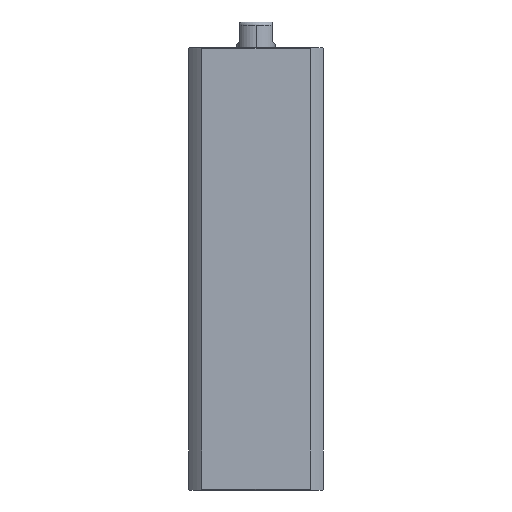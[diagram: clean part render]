
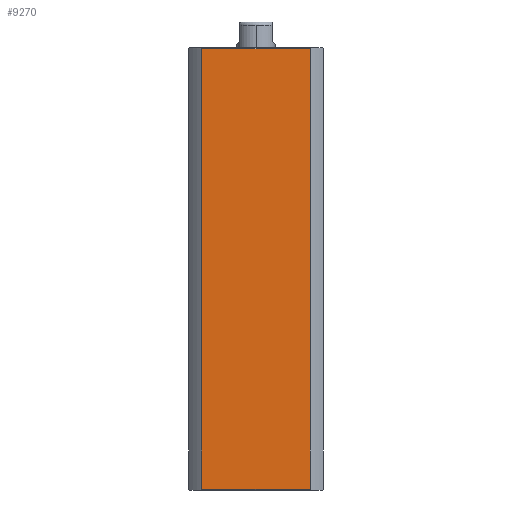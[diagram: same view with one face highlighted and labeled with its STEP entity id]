
A CAD part, left-side view. The second image highlights one B-rep face of the part: STEP entity #9270.
In plain terms, the highlighted planar face has unit normal (-1, 0, 0).
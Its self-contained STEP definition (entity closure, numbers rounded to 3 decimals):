
#284 = DIRECTION ( 'NONE',  ( 1., 0., 0. ) ) ;
#733 = VECTOR ( 'NONE', #3552, 1000. ) ;
#960 = ORIENTED_EDGE ( 'NONE', *, *, #977, .F. ) ;
#977 = EDGE_CURVE ( 'NONE', #9630, #1693, #4318, .T. ) ;
#1124 = CARTESIAN_POINT ( 'NONE',  ( -21., 21., 138. ) ) ;
#1693 = VERTEX_POINT ( 'NONE', #10340 ) ;
#1703 = DIRECTION ( 'NONE',  ( 0., 0., 1. ) ) ;
#2177 = VERTEX_POINT ( 'NONE', #7682 ) ;
#2524 = EDGE_CURVE ( 'NONE', #9630, #2177, #8890, .T. ) ;
#2573 = AXIS2_PLACEMENT_3D ( 'NONE', #1124, #284, #6487 ) ;
#3086 = LINE ( 'NONE', #9025, #733 ) ;
#3405 = EDGE_CURVE ( 'NONE', #9183, #2177, #9159, .T. ) ;
#3552 = DIRECTION ( 'NONE',  ( 0., -1., 0. ) ) ;
#3614 = CARTESIAN_POINT ( 'NONE',  ( -21., 16.971, 0.3 ) ) ;
#3734 = CARTESIAN_POINT ( 'NONE',  ( -21., -16.971, -1362. ) ) ;
#3927 = DIRECTION ( 'NONE',  ( 0., 0., -1. ) ) ;
#4012 = VECTOR ( 'NONE', #10975, 1000. ) ;
#4318 = LINE ( 'NONE', #3734, #9499 ) ;
#4575 = CARTESIAN_POINT ( 'NONE',  ( -21., 21., 137.7 ) ) ;
#5113 = ORIENTED_EDGE ( 'NONE', *, *, #2524, .T. ) ;
#5350 = EDGE_LOOP ( 'NONE', ( #9006, #8116, #960, #5113 ) ) ;
#5658 = CARTESIAN_POINT ( 'NONE',  ( -21., -16.971, 137.7 ) ) ;
#6487 = DIRECTION ( 'NONE',  ( 0., 1., 0. ) ) ;
#6701 = VECTOR ( 'NONE', #1703, 1000. ) ;
#7682 = CARTESIAN_POINT ( 'NONE',  ( -21., 16.971, 137.7 ) ) ;
#8053 = EDGE_CURVE ( 'NONE', #9183, #1693, #3086, .T. ) ;
#8116 = ORIENTED_EDGE ( 'NONE', *, *, #8053, .T. ) ;
#8890 = LINE ( 'NONE', #4575, #4012 ) ;
#9006 = ORIENTED_EDGE ( 'NONE', *, *, #3405, .F. ) ;
#9025 = CARTESIAN_POINT ( 'NONE',  ( -21., 21., 0.3 ) ) ;
#9159 = LINE ( 'NONE', #11576, #6701 ) ;
#9183 = VERTEX_POINT ( 'NONE', #3614 ) ;
#9270 = ADVANCED_FACE ( 'NONE', ( #10460 ), #11083, .F. ) ;
#9499 = VECTOR ( 'NONE', #3927, 1000. ) ;
#9630 = VERTEX_POINT ( 'NONE', #5658 ) ;
#10340 = CARTESIAN_POINT ( 'NONE',  ( -21., -16.971, 0.3 ) ) ;
#10460 = FACE_OUTER_BOUND ( 'NONE', #5350, .T. ) ;
#10975 = DIRECTION ( 'NONE',  ( 0., 1., 0. ) ) ;
#11083 = PLANE ( 'NONE',  #2573 ) ;
#11576 = CARTESIAN_POINT ( 'NONE',  ( -21., 16.971, -1362. ) ) ;
